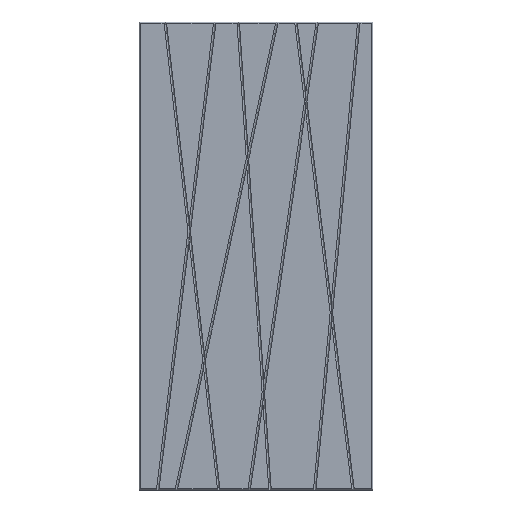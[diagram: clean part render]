
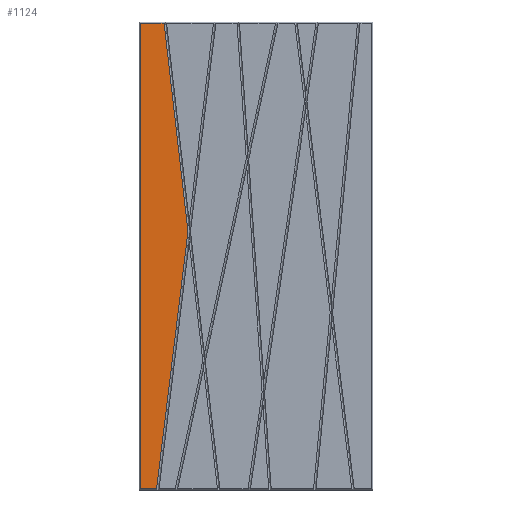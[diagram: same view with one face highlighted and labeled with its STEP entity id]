
A CAD part, top view. The second image highlights one B-rep face of the part: STEP entity #1124.
In plain terms, the highlighted planar face has unit normal (0, 0, 1).
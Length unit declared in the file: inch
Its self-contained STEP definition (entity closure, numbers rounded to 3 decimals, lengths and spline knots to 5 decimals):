
#30=FACE_OUTER_BOUND('',#105,.T.);
#105=EDGE_LOOP('',(#780,#781,#782,#783,#784));
#177=LINE('',#1619,#334);
#207=LINE('',#1678,#364);
#208=LINE('',#1680,#365);
#209=LINE('',#1682,#366);
#210=LINE('',#1683,#367);
#334=VECTOR('',#1303,0.3937);
#364=VECTOR('',#1357,0.3937);
#365=VECTOR('',#1358,0.3937);
#366=VECTOR('',#1359,0.3937);
#367=VECTOR('',#1360,0.3937);
#489=VERTEX_POINT('',#1616);
#490=VERTEX_POINT('',#1618);
#507=VERTEX_POINT('',#1677);
#508=VERTEX_POINT('',#1679);
#509=VERTEX_POINT('',#1681);
#575=EDGE_CURVE('',#490,#489,#177,.T.);
#605=EDGE_CURVE('',#507,#489,#207,.T.);
#606=EDGE_CURVE('',#508,#507,#208,.T.);
#607=EDGE_CURVE('',#509,#508,#209,.T.);
#608=EDGE_CURVE('',#509,#490,#210,.T.);
#780=ORIENTED_EDGE('',*,*,#575,.T.);
#781=ORIENTED_EDGE('',*,*,#605,.F.);
#782=ORIENTED_EDGE('',*,*,#606,.F.);
#783=ORIENTED_EDGE('',*,*,#607,.F.);
#784=ORIENTED_EDGE('',*,*,#608,.T.);
#1049=PLANE('',#1221);
#1124=ADVANCED_FACE('',(#30),#1049,.T.);
#1221=AXIS2_PLACEMENT_3D('',#1676,#1355,#1356);
#1303=DIRECTION('',(-0.114,0.994,0.));
#1355=DIRECTION('center_axis',(0.,0.,1.));
#1356=DIRECTION('ref_axis',(1.,0.,0.));
#1357=DIRECTION('',(1.,0.,0.));
#1358=DIRECTION('',(0.,1.,0.));
#1359=DIRECTION('',(-1.,0.,0.));
#1360=DIRECTION('',(0.121,0.993,0.));
#1616=CARTESIAN_POINT('',(6.17181,96.77567,0.5));
#1618=CARTESIAN_POINT('',(11.06777,54.0156,0.5));
#1619=CARTESIAN_POINT('',(8.92049,72.76939,0.5));
#1676=CARTESIAN_POINT('Origin',(25.02251,49.02567,0.5));
#1677=CARTESIAN_POINT('',(1.27251,96.77567,0.5));
#1678=CARTESIAN_POINT('',(37.02251,96.77567,0.5));
#1679=CARTESIAN_POINT('',(1.27251,1.27567,0.5));
#1680=CARTESIAN_POINT('',(1.27251,73.02567,0.5));
#1681=CARTESIAN_POINT('',(4.63393,1.27567,0.5));
#1682=CARTESIAN_POINT('',(13.02251,1.27567,0.5));
#1683=CARTESIAN_POINT('',(13.55461,74.40095,0.5));
